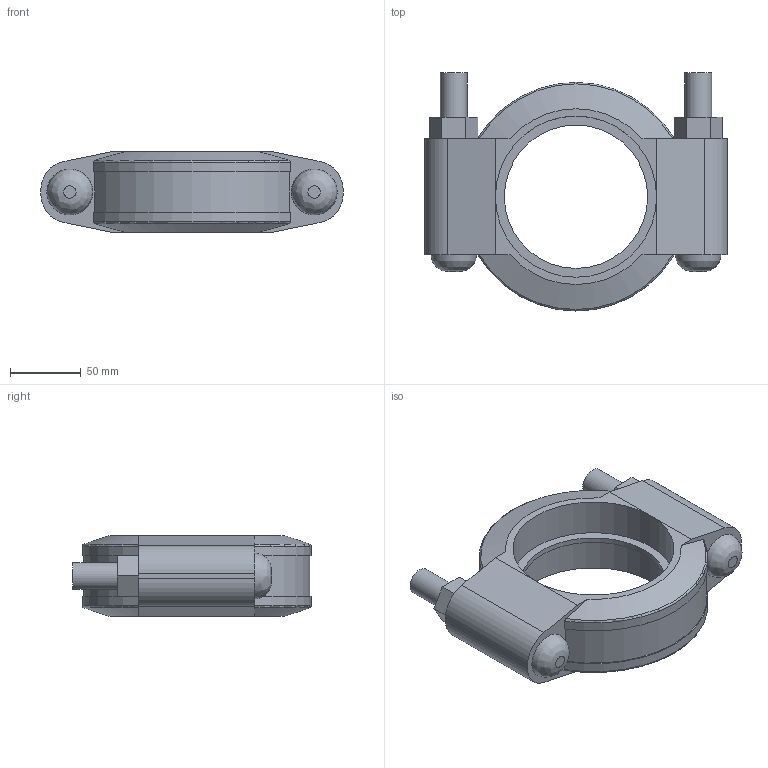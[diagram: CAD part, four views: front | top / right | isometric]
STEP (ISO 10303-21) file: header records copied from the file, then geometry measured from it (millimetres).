
FILE_DESCRIPTION(/* description */ ('VIC CPLG RGD IR STYLE HP-170 (ESG)'),/* implementation_level */ '2;1');
FILE_NAME(/* name */ 'C:\Files for Export\HP-170\STEP\Victaulic_IPS-EndSeal_Cplg Rgd_IR_Style HP-170 (ESG)\Victaulic_IPS-EndSeal_Cplg Rgd_IR_Style HP-170 (ESG)_4 (100).stp',/* time_stamp */ '2023-12-19T11:33:25+01:00',/* author */ ('CONSTRUCTION PIPING SERVICES'),/* organization */ ('Victaulic'),/* preprocessor_version */ 'ST-DEVELOPER v18.1',/* originating_system */ 'Autodesk Inventor 2020',/* authorisation */ '');
FILE_SCHEMA (('AUTOMOTIVE_DESIGN { 1 0 10303 214 3 1 1 }'));
Length unit declared in the file: inch
Products named in the file (1): HP-170-04.0
Bounding box: 214.38 x 168.79 x 57.15 mm (x, y, z)
Volume: 750911.2 mm3; surface area: 114795.1 mm2
Topology: 1 solids, 3 shells, 77 faces, 203 edges, 134 vertices
Faces by surface type: plane 46, cylinder 21, torus 4, cone 4, bspline 2
Full cylindrical faces by diameter (mm): 19.05 x4, 101.6 x1, 114.3 x2
Entity records: 2639 total; most frequent: CARTESIAN_POINT 555, DIRECTION 407, ORIENTED_EDGE 406, EDGE_CURVE 203, AXIS2_PLACEMENT_3D 144, VERTEX_POINT 134, LINE 119, VECTOR 119
